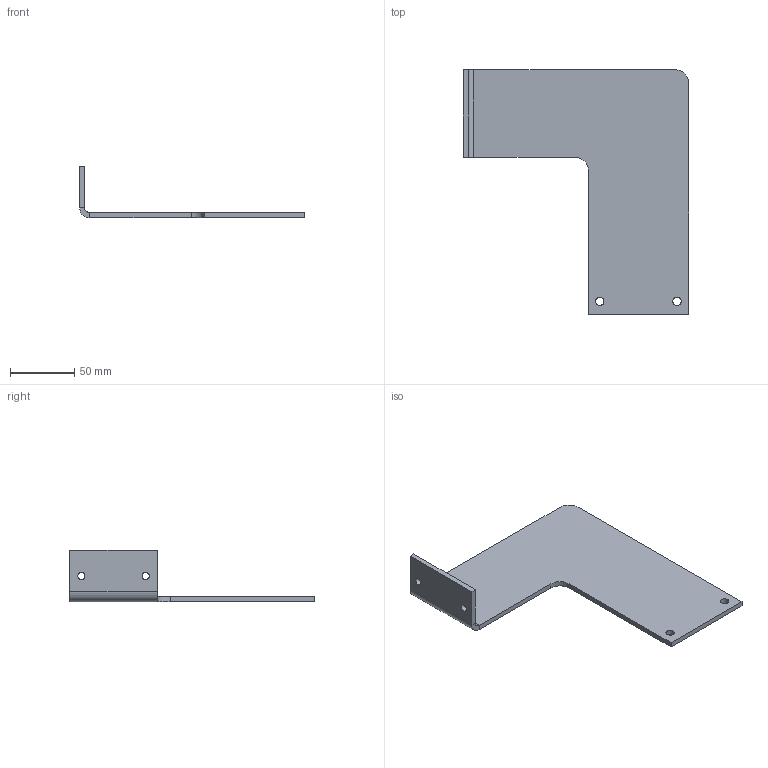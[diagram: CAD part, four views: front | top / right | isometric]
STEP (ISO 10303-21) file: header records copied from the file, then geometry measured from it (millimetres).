
FILE_DESCRIPTION(('STEP AP214'), '1');
FILE_NAME('SkobaRabo_vert', '2014-12-05T09:06:53', (''), (''), 'ASCON STEP Converter 1.3', 'ASCON Math Kernel', '');
FILE_SCHEMA(('AUTOMOTIVE_DESIGN { 1 0 10303 214 3 1 1}'));
Length unit declared in the file: millimetre
Products named in the file (1): 4
Bounding box: 175 x 190 x 40 mm (x, y, z)
Volume: 94300 mm3; surface area: 50604.7 mm2
Topology: 1 solids, 1 shells, 22 faces, 52 edges, 32 vertices
Faces by surface type: plane 14, cylinder 8
Full cylindrical faces by diameter (mm): 5.5 x2, 6.5 x2
Entity records: 683 total; most frequent: DIRECTION 114, CARTESIAN_POINT 107, ORIENTED_EDGE 104, EDGE_CURVE 52, AXIS2_PLACEMENT_3D 39, LINE 36, VECTOR 36, VERTEX_POINT 32
